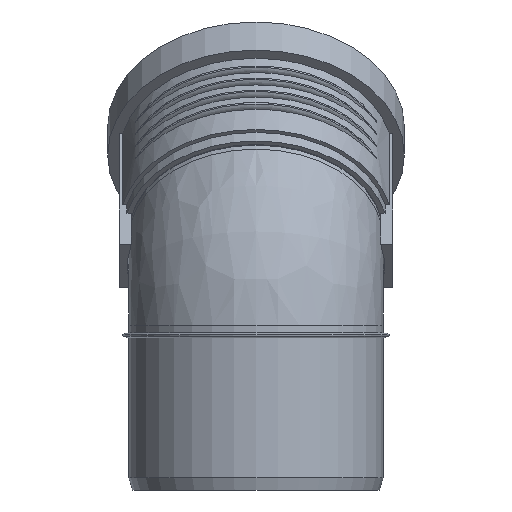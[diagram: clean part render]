
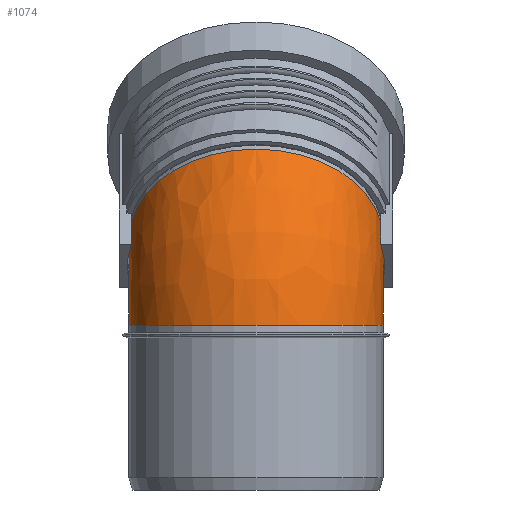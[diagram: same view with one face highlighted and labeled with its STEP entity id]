
A CAD part, left-side view. The second image highlights one B-rep face of the part: STEP entity #1074.
In plain terms, the highlighted free-form (B-spline) face has degree [2, 2] with [9, 9] control points.
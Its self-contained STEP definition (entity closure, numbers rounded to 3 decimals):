
#142=(
BOUNDED_SURFACE()
B_SPLINE_SURFACE(2,2,((#1588,#1589,#1590,#1591,#1592,#1593,#1594,#1595,
#1596),(#1597,#1598,#1599,#1600,#1601,#1602,#1603,#1604,#1605),(#1606,#1607,
#1608,#1609,#1610,#1611,#1612,#1613,#1614),(#1615,#1616,#1617,#1618,#1619,
#1620,#1621,#1622,#1623),(#1624,#1625,#1626,#1627,#1628,#1629,#1630,#1631,
#1632),(#1633,#1634,#1635,#1636,#1637,#1638,#1639,#1640,#1641),(#1642,#1643,
#1644,#1645,#1646,#1647,#1648,#1649,#1650),(#1651,#1652,#1653,#1654,#1655,
#1656,#1657,#1658,#1659),(#1660,#1661,#1662,#1663,#1664,#1665,#1666,#1667,
#1668)),.UNSPECIFIED.,.T.,.T.,.F.)
B_SPLINE_SURFACE_WITH_KNOTS((3,2,2,2,3),(3,2,2,2,3),(-3.142,
-1.571,0.,1.571,3.142),(-3.142,
-1.571,0.,1.571,3.142),.UNSPECIFIED.)
GEOMETRIC_REPRESENTATION_ITEM()
RATIONAL_B_SPLINE_SURFACE(((1.,0.707,1.,0.707,1.,
0.707,1.,0.707,1.),(0.707,0.5,
0.707,0.5,0.707,0.5,
0.707,0.5,0.707),(1.,0.707,
1.,0.707,1.,0.707,1.,0.707,1.),(0.707,
0.5,0.707,0.5,0.707,
0.5,0.707,0.5,0.707),
(1.,0.707,1.,0.707,1.,0.707,1.,0.707,
1.),(0.707,0.5,0.707,0.5,
0.707,0.5,0.707,0.5,
0.707),(1.,0.707,1.,0.707,1.,0.707,
1.,0.707,1.),(0.707,0.5,0.707,
0.5,0.707,0.5,0.707,
0.5,0.707),(1.,0.707,1.,0.707,
1.,0.707,1.,0.707,1.)))
REPRESENTATION_ITEM($)
SURFACE()
);
#260=FACE_OUTER_BOUND($,#331,.T.);
#331=EDGE_LOOP($,(#734,#735));
#425=CIRCLE($,#1158,62.6);
#426=CIRCLE($,#1159,62.6);
#480=VERTEX_POINT($,#1586);
#586=EDGE_CURVE($,#480,#480,#425,.T.);
#587=EDGE_CURVE($,#480,#480,#426,.T.);
#734=ORIENTED_EDGE($,*,*,#586,.T.);
#735=ORIENTED_EDGE($,*,*,#587,.F.);
#1074=ADVANCED_FACE($,(#260),#142,.F.);
#1158=AXIS2_PLACEMENT_3D($,#1587,#1307,#1308);
#1159=AXIS2_PLACEMENT_3D($,#1669,#1309,#1310);
#1307=DIRECTION('center_axis',(-0.707,0.,-0.707));
#1308=DIRECTION('ref_axis',(-0.707,0.,0.707));
#1309=DIRECTION('center_axis',(0.,0.,-1.));
#1310=DIRECTION('ref_axis',(-1.,0.,0.));
#1586=CARTESIAN_POINT('',(62.6,0.,81.15));
#1587=CARTESIAN_POINT('Origin',(18.335,0.,125.415));
#1588=CARTESIAN_POINT('Ctrl Pts',(62.6,0.,81.15));
#1589=CARTESIAN_POINT('Ctrl Pts',(62.6,0.,81.15));
#1590=CARTESIAN_POINT('Ctrl Pts',(62.6,0.,81.15));
#1591=CARTESIAN_POINT('Ctrl Pts',(62.6,0.,81.15));
#1592=CARTESIAN_POINT('Ctrl Pts',(62.6,0.,81.15));
#1593=CARTESIAN_POINT('Ctrl Pts',(62.6,0.,81.15));
#1594=CARTESIAN_POINT('Ctrl Pts',(62.6,0.,81.15));
#1595=CARTESIAN_POINT('Ctrl Pts',(62.6,0.,81.15));
#1596=CARTESIAN_POINT('Ctrl Pts',(62.6,0.,81.15));
#1597=CARTESIAN_POINT('Ctrl Pts',(62.6,-62.6,81.15));
#1598=CARTESIAN_POINT('Ctrl Pts',(62.6,-62.6,81.15));
#1599=CARTESIAN_POINT('Ctrl Pts',(62.6,-62.6,81.15));
#1600=CARTESIAN_POINT('Ctrl Pts',(62.6,-62.6,81.15));
#1601=CARTESIAN_POINT('Ctrl Pts',(62.6,-62.6,81.15));
#1602=CARTESIAN_POINT('Ctrl Pts',(62.6,-62.6,81.15));
#1603=CARTESIAN_POINT('Ctrl Pts',(62.6,-62.6,81.15));
#1604=CARTESIAN_POINT('Ctrl Pts',(62.6,-62.6,81.15));
#1605=CARTESIAN_POINT('Ctrl Pts',(62.6,-62.6,81.15));
#1606=CARTESIAN_POINT('Ctrl Pts',(62.6,-62.6,18.55));
#1607=CARTESIAN_POINT('Ctrl Pts',(0.,-62.6,18.55));
#1608=CARTESIAN_POINT('Ctrl Pts',(0.,-62.6,81.15));
#1609=CARTESIAN_POINT('Ctrl Pts',(0.,-62.6,143.75));
#1610=CARTESIAN_POINT('Ctrl Pts',(62.6,-62.6,143.75));
#1611=CARTESIAN_POINT('Ctrl Pts',(125.2,-62.6,143.75));
#1612=CARTESIAN_POINT('Ctrl Pts',(125.2,-62.6,81.15));
#1613=CARTESIAN_POINT('Ctrl Pts',(125.2,-62.6,18.55));
#1614=CARTESIAN_POINT('Ctrl Pts',(62.6,-62.6,18.55));
#1615=CARTESIAN_POINT('Ctrl Pts',(62.6,-62.6,-44.05));
#1616=CARTESIAN_POINT('Ctrl Pts',(-62.6,-62.6,-44.05));
#1617=CARTESIAN_POINT('Ctrl Pts',(-62.6,-62.6,81.15));
#1618=CARTESIAN_POINT('Ctrl Pts',(-62.6,-62.6,206.35));
#1619=CARTESIAN_POINT('Ctrl Pts',(62.6,-62.6,206.35));
#1620=CARTESIAN_POINT('Ctrl Pts',(187.8,-62.6,206.35));
#1621=CARTESIAN_POINT('Ctrl Pts',(187.8,-62.6,81.15));
#1622=CARTESIAN_POINT('Ctrl Pts',(187.8,-62.6,-44.05));
#1623=CARTESIAN_POINT('Ctrl Pts',(62.6,-62.6,-44.05));
#1624=CARTESIAN_POINT('Ctrl Pts',(62.6,0.,-44.05));
#1625=CARTESIAN_POINT('Ctrl Pts',(-62.6,0.,-44.05));
#1626=CARTESIAN_POINT('Ctrl Pts',(-62.6,0.,81.15));
#1627=CARTESIAN_POINT('Ctrl Pts',(-62.6,0.,206.35));
#1628=CARTESIAN_POINT('Ctrl Pts',(62.6,0.,206.35));
#1629=CARTESIAN_POINT('Ctrl Pts',(187.8,0.,206.35));
#1630=CARTESIAN_POINT('Ctrl Pts',(187.8,0.,81.15));
#1631=CARTESIAN_POINT('Ctrl Pts',(187.8,0.,-44.05));
#1632=CARTESIAN_POINT('Ctrl Pts',(62.6,0.,-44.05));
#1633=CARTESIAN_POINT('Ctrl Pts',(62.6,62.6,-44.05));
#1634=CARTESIAN_POINT('Ctrl Pts',(-62.6,62.6,-44.05));
#1635=CARTESIAN_POINT('Ctrl Pts',(-62.6,62.6,81.15));
#1636=CARTESIAN_POINT('Ctrl Pts',(-62.6,62.6,206.35));
#1637=CARTESIAN_POINT('Ctrl Pts',(62.6,62.6,206.35));
#1638=CARTESIAN_POINT('Ctrl Pts',(187.8,62.6,206.35));
#1639=CARTESIAN_POINT('Ctrl Pts',(187.8,62.6,81.15));
#1640=CARTESIAN_POINT('Ctrl Pts',(187.8,62.6,-44.05));
#1641=CARTESIAN_POINT('Ctrl Pts',(62.6,62.6,-44.05));
#1642=CARTESIAN_POINT('Ctrl Pts',(62.6,62.6,18.55));
#1643=CARTESIAN_POINT('Ctrl Pts',(0.,62.6,18.55));
#1644=CARTESIAN_POINT('Ctrl Pts',(0.,62.6,81.15));
#1645=CARTESIAN_POINT('Ctrl Pts',(0.,62.6,143.75));
#1646=CARTESIAN_POINT('Ctrl Pts',(62.6,62.6,143.75));
#1647=CARTESIAN_POINT('Ctrl Pts',(125.2,62.6,143.75));
#1648=CARTESIAN_POINT('Ctrl Pts',(125.2,62.6,81.15));
#1649=CARTESIAN_POINT('Ctrl Pts',(125.2,62.6,18.55));
#1650=CARTESIAN_POINT('Ctrl Pts',(62.6,62.6,18.55));
#1651=CARTESIAN_POINT('Ctrl Pts',(62.6,62.6,81.15));
#1652=CARTESIAN_POINT('Ctrl Pts',(62.6,62.6,81.15));
#1653=CARTESIAN_POINT('Ctrl Pts',(62.6,62.6,81.15));
#1654=CARTESIAN_POINT('Ctrl Pts',(62.6,62.6,81.15));
#1655=CARTESIAN_POINT('Ctrl Pts',(62.6,62.6,81.15));
#1656=CARTESIAN_POINT('Ctrl Pts',(62.6,62.6,81.15));
#1657=CARTESIAN_POINT('Ctrl Pts',(62.6,62.6,81.15));
#1658=CARTESIAN_POINT('Ctrl Pts',(62.6,62.6,81.15));
#1659=CARTESIAN_POINT('Ctrl Pts',(62.6,62.6,81.15));
#1660=CARTESIAN_POINT('Ctrl Pts',(62.6,0.,81.15));
#1661=CARTESIAN_POINT('Ctrl Pts',(62.6,0.,81.15));
#1662=CARTESIAN_POINT('Ctrl Pts',(62.6,0.,81.15));
#1663=CARTESIAN_POINT('Ctrl Pts',(62.6,0.,81.15));
#1664=CARTESIAN_POINT('Ctrl Pts',(62.6,0.,81.15));
#1665=CARTESIAN_POINT('Ctrl Pts',(62.6,0.,81.15));
#1666=CARTESIAN_POINT('Ctrl Pts',(62.6,0.,81.15));
#1667=CARTESIAN_POINT('Ctrl Pts',(62.6,0.,81.15));
#1668=CARTESIAN_POINT('Ctrl Pts',(62.6,0.,81.15));
#1669=CARTESIAN_POINT('Origin',(0.,0.,81.15));
